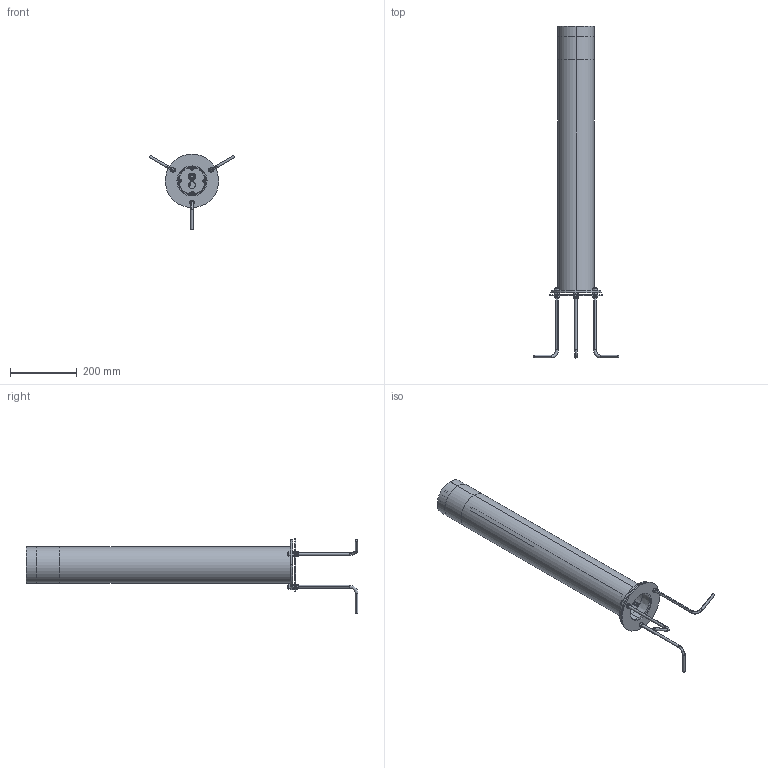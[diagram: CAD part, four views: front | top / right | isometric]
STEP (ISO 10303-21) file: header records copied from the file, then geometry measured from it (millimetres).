
FILE_DESCRIPTION((''),'2;1');
FILE_NAME('D9AH_ASM_16_ASM','2024-09-18T',('C028'),(''),'CREO PARAMETRIC BY PTC INC, 2014190','CREO PARAMETRIC BY PTC INC, 2014190','');
FILE_SCHEMA(('CONFIG_CONTROL_DESIGN'));
Products named in the file (30): 9AD-09GUDINGZUO_6; 9AB-04DUDINGZUOFANGSHUIQUAN_4; 9AB-03DUDINGZUOHOUGAI_4; PAD_1_135_2; FANGUANGSAI-1_1_135_2; FANGSHUISAI_1_135_2; PG9_ASM_1_ASM_135_ASM_2_ASM; PG9_ASM_2_ASM; 9AD-04GUDINGZHU_6; M4X8MM_1_1_1_2_2; M3_20_5_2; 3DJMOZU_6; M3X501_1_6_9; M4X12MM_3_1_1_2_2; 9AE-01KUOSHAIPIAN_3; 9AE_ASM_5_ASM; 9AD-07_300_11; 2AE-02_9; 9AH-03SANREBAN_13; GUANGYUANBAN00_299_2; 9AD-02_2; 9AD-03_3; 9AH-01TOUGUANGZHAO_4; 9AD-01SHANGHAI_14; 9AB_FA_LAN_PAN_56; 9AB-11_4__ANY; M8LUOMU_3__ANY; 9AB-10_5__ANY; 9ABDIZUO_AF5_ASM_333_ASM_1_ANY_ASM; D9AH_ASM_16_ASM
Assembly tree (48 placements, depth 5):
  D9AH_ASM_16_ASM
    9AE_ASM_5_ASM
      9AD-09GUDINGZUO_6
      9AB-04DUDINGZUOFANGSHUIQUAN_4  x2
      9AB-03DUDINGZUOHOUGAI_4
      PG9_ASM_2_ASM
        PG9_ASM_1_ASM_135_ASM_2_ASM
          PAD_1_135_2
          FANGUANGSAI-1_1_135_2
          FANGSHUISAI_1_135_2
      9AD-04GUDINGZHU_6
      M4X8MM_1_1_1_2_2  x4
      M3_20_5_2
      3DJMOZU_6
      M3X501_1_6_9  x3
      M4X12MM_3_1_1_2_2  x4
      9AE-01KUOSHAIPIAN_3
    9AD-07_300_11
    2AE-02_9
    9AH-03SANREBAN_13
    GUANGYUANBAN00_299_2
    9AD-02_2
    9AD-03_3
    9AH-01TOUGUANGZHAO_4
    9AD-01SHANGHAI_14
    9AB_FA_LAN_PAN_56
    9ABDIZUO_AF5_ASM_333_ASM_1_ANY_ASM
      9AB-11_4__ANY  x3
      M8LUOMU_3__ANY  x9
      9AB-10_5__ANY
Bounding box: 257.75 x 995.35 x 226.5 mm (x, y, z)
Volume: 1600212.5 mm3; surface area: 973207.3 mm2
Topology: 44 solids, 44 shells, 2810 faces, 7827 edges, 5192 vertices
Faces by surface type: plane 1511, cylinder 510, cone 316, bspline 220, torus 195, sphere 46, revolution 12
Entity records: 89052 total; most frequent: CARTESIAN_POINT 33216, ORIENTED_EDGE 11908, DIRECTION 11062, EDGE_CURVE 5954, VERTEX_POINT 3985, AXIS2_PLACEMENT_3D 3764, VECTOR 3528, LINE 3528
